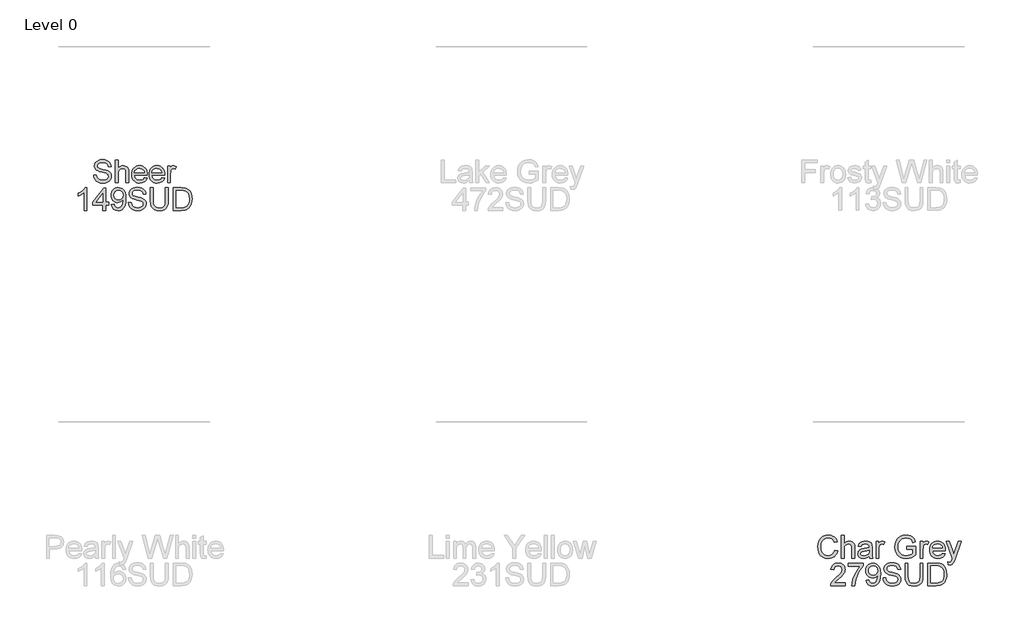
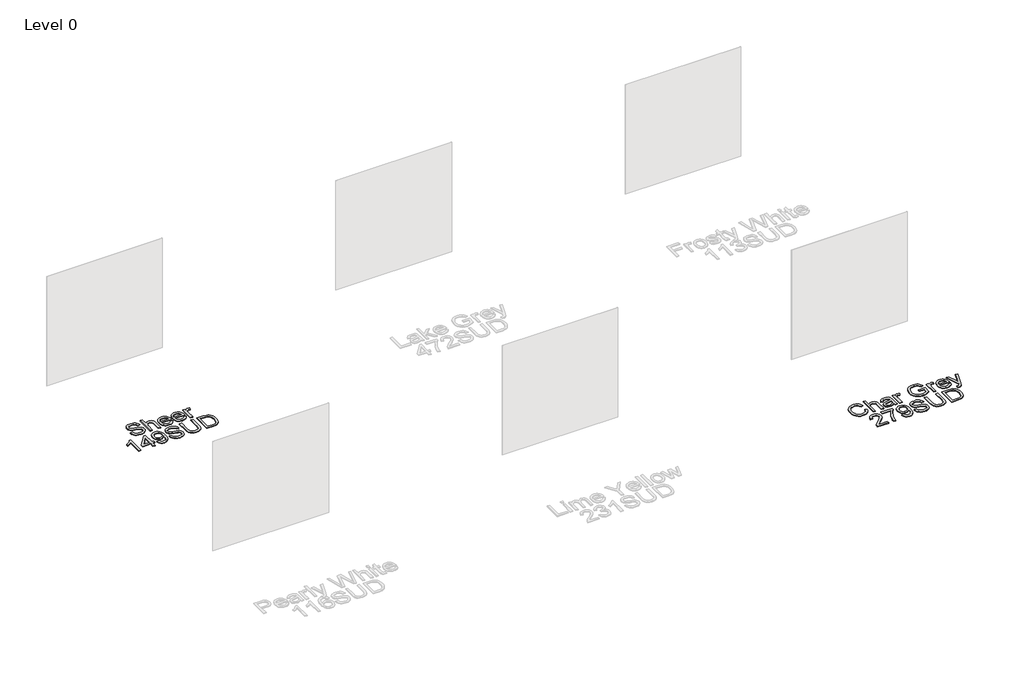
# One storey, part 14 of 37: 2 proxies.
"""IFC4 building model written with IfcOpenShell, lengths in millimetres."""

from ifc_helpers import new_model, si_unit, origin, origin_with_axes, place, context, project, spatial, polyline, outline, extrude, element, save

model = new_model("IFC4")

# Units and contexts
model_context = context("Model", 3, world=origin())
ifc_project = project(units=[si_unit("LENGTHUNIT", "METRE", prefix="MILLI")], contexts=[model_context])

# Site, building, storey
site = spatial("IfcSite", under=ifc_project)
building = spatial("IfcBuilding", under=site)
storey = spatial("IfcBuildingStorey", under=building, Name="Level 0", Elevation=0.0)

# Proxies
placement = place(None, origin())
element("IfcBuildingElementProxy", 1, Name="300mm Arial", ObjectType="300mm Arial", at=placement, inside=storey, context=model_context, shape_type="SweptSolid", body=[
    extrude(outline(polyline([(12.5285363, -46789.2649241), (50.1996526, -46789.2649241), (54.5222661, -46810.1698185), (62.3397585, -46826.9728286), (74.5350466, -46840.308551), (91.9910473, -46850.8115819), (113.328203, -46857.6265959), (137.1669563, -46859.8982672), (158.1546241, -46858.1784189), (176.5303298, -46853.0188739), (191.4203535, -46844.8518936), (201.9509756, -46834.1097394), (208.2141666, -46821.7764955), (210.3018969, -46808.8362463), (208.7383985, -46796.2270909), (204.047903, -46785.3285868), (194.5197593, -46776.0303694), (178.4433162, -46768.222074), (123.5921107, -46753.837888), (87.5856604, -46744.3189414), (64.5470504, -46735.2598472), (45.7942657, -46722.5863125), (32.5045287, -46707.2272392), (24.5858687, -46689.5137211), (21.9463154, -46669.7768521), (25.2112681, -46647.7131294), (35.0061262, -46627.1393289), (51.0733724, -46609.7017223), (73.1554891, -46597.0465817), (99.6613869, -46589.3486509), (128.999976, -46586.782674), (160.7849804, -46589.4682126), (188.5968592, -46597.5248283), (211.4423311, -46610.7869742), (228.3281147, -46629.0891034), (239.0150867, -46651.2907818), (243.2641237, -46676.2515752), (205.5930074, -46676.2515752), (198.6768259, -46653.7739853), (184.2558517, -46637.5503893), (161.7230795, -46627.7279401), (130.471504, -46624.4537903), (98.4841645, -46627.6911519), (76.5400035, -46637.4032365), (63.8480747, -46651.695452), (59.6174317, -46668.6732061), (62.61567, -46683.1493626), (71.6103848, -46694.7928278), (92.8739641, -46705.2038882), (133.1202543, -46715.8356779), (174.6541316, -46725.9340387), (199.7804719, -46734.7448125), (221.2555833, -46748.4116286), (236.2375776, -46765.2790181), (245.0391543, -46785.1630399), (247.9730132, -46807.8797531), (244.5976959, -46831.102304), (234.471744, -46852.9452975), (218.0090247, -46871.7440675), (195.6234053, -46885.8339479), (168.7036403, -46894.6355246), (138.6384843, -46897.5693835), (101.7307231, -46894.4055984), (71.3528674, -46884.9142429), (47.1554291, -46869.0585289), (28.7889205, -46846.8016682), (16.9983026, -46819.6887651), (12.5285363, -46789.2649241)])), origin_with_axes(), (0.0, 0.0, 1.0), 10.0),
    extrude(outline(polyline([(299.7707982, -46892.860494), (299.7707982, -46591.4915635), (337.4419145, -46591.4915635), (337.4419145, -46702.2976205), (351.278876, -46686.7821973), (366.8172918, -46675.6997522), (384.0571618, -46669.0502852), (402.998486, -46666.8337961), (425.7519874, -46669.2526203), (445.3049155, -46676.5090926), (460.700777, -46688.0329961), (470.9830787, -46703.2541137), (476.7772201, -46724.1682051), (478.7086006, -46752.7710302), (478.7086006, -46892.860494), (441.0374843, -46892.860494), (441.0374843, -46756.6705794), (438.0392461, -46733.0893435), (429.0445313, -46716.9393239), (414.5499807, -46707.6135153), (395.0522349, -46704.5049125), (379.1321416, -46706.6018398), (364.1869355, -46712.8926219), (351.8077064, -46722.7702535), (343.5855438, -46735.6277292), (338.9778218, -46752.7158479), (337.4419145, -46775.2854083), (337.4419145, -46892.860494), (299.7707982, -46892.860494)])), origin_with_axes(), (0.0, 0.0, 1.0), 10.0),
    extrude(outline(polyline([(685.4582819, -46826.9360404), (722.3936342, -46831.64493), (709.085503, -46859.4752029), (687.8495149, -46880.2789297), (659.1639163, -46893.2467701), (623.5069539, -46897.5693835), (600.1326517, -46895.7046817), (579.3059322, -46890.1105761), (561.0267956, -46880.7870668), (545.2952417, -46867.7341537), (532.6446996, -46851.3151204), (523.6085981, -46831.8932503), (518.1869372, -46809.4685435), (516.3797169, -46784.0409998), (518.2053313, -46757.7512327), (523.6821745, -46734.5792656), (532.8102465, -46714.5250983), (545.5895473, -46697.5887309), (561.2797144, -46684.133447), (579.1403853, -46674.5225298), (599.1715599, -46668.7559796), (621.3732383, -46666.8337961), (642.8598461, -46668.751381), (662.2909133, -46674.5041357), (679.6664397, -46684.0920602), (694.9864256, -46697.5151545), (707.4921142, -46714.4147337), (716.4247489, -46734.4321128), (721.7843297, -46757.5672917), (723.5708566, -46783.8202706), (723.3501274, -46793.9738137), (554.0508332, -46793.9738137), (560.5715416, -46822.1719686), (575.7190827, -46842.902119), (597.5804703, -46855.6492302), (624.2427179, -46859.8982672), (644.2922866, -46857.9300985), (661.1780702, -46852.0255925), (674.9000686, -46841.8168671), (685.4582819, -46826.9360404)]), holes=[polyline([(554.0508332, -46756.3026974), (685.8997403, -46756.3026974), (680.8045747, -46736.4002814), (670.8165785, -46722.1632482), (648.8540234, -46708.9194964), (621.2260856, -46704.5049125), (595.8330308, -46708.0273826), (574.836166, -46718.5947929), (560.2404478, -46735.0667092), (554.0508332, -46756.3026974)])]), origin_with_axes(), (0.0, 0.0, 1.0), 10.0),
    extrude(outline(polyline([(916.1938693, -46826.9360404), (953.1292216, -46831.64493), (939.8210904, -46859.4752029), (918.5851023, -46880.2789297), (889.8995037, -46893.2467701), (854.2425413, -46897.5693835), (830.868239, -46895.7046817), (810.0415196, -46890.1105761), (791.7623829, -46880.7870668), (776.0308291, -46867.7341537), (763.380287, -46851.3151204), (754.3441855, -46831.8932503), (748.9225246, -46809.4685435), (747.1153043, -46784.0409998), (748.9409187, -46757.7512327), (754.4177619, -46734.5792656), (763.5458339, -46714.5250983), (776.3251347, -46697.5887309), (792.0153018, -46684.133447), (809.8759727, -46674.5225298), (829.9071473, -46668.7559796), (852.1088257, -46666.8337961), (873.5954335, -46668.751381), (893.0265006, -46674.5041357), (910.4020271, -46684.0920602), (925.722013, -46697.5151545), (938.2277015, -46714.4147337), (947.1603362, -46734.4321128), (952.519917, -46757.5672917), (954.306444, -46783.8202706), (954.0857148, -46793.9738137), (784.7864206, -46793.9738137), (791.307129, -46822.1719686), (806.4546701, -46842.902119), (828.3160577, -46855.6492302), (854.9783053, -46859.8982672), (875.027874, -46857.9300985), (891.9136576, -46852.0255925), (905.635656, -46841.8168671), (916.1938693, -46826.9360404)]), holes=[polyline([(784.7864206, -46756.3026974), (916.6353277, -46756.3026974), (911.540162, -46736.4002814), (901.5521659, -46722.1632482), (879.5896108, -46708.9194964), (851.9616729, -46704.5049125), (826.5686182, -46708.0273826), (805.5717533, -46718.5947929), (790.9760352, -46735.0667092), (784.7864206, -46756.3026974)])]), origin_with_axes(), (0.0, 0.0, 1.0), 10.0),
    extrude(outline(polyline([(991.9775603, -46892.860494), (991.9775603, -46671.5426857), (1024.9397871, -46671.5426857), (1024.9397871, -46704.2841833), (1037.1166811, -46685.3014723), (1048.337082, -46674.1178596), (1059.594271, -46668.654812), (1071.8815296, -46666.8337961), (1090.6435114, -46669.7400639), (1109.6997987, -46678.4588672), (1097.1182345, -46712.2304343), (1083.8744827, -46706.4362929), (1070.6307309, -46704.5049125), (1059.3827389, -46706.3627165), (1049.3303633, -46711.9361288), (1041.2093683, -46720.8020848), (1035.7555177, -46732.5375205), (1031.1753869, -46753.5803706), (1029.6486766, -46776.5362071), (1029.6486766, -46892.860494), (991.9775603, -46892.860494)])), origin_with_axes(), (0.0, 0.0, 1.0), 10.0),
    extrude(outline(polyline([(-76.9403649, -47258.7849475), (-114.6114812, -47258.7849475), (-114.6114812, -47023.9290818), (-150.2960347, -47049.3497277), (-189.9537138, -47068.3692268), (-189.9537138, -47032.7582497), (-160.3668044, -47016.6634124), (-134.7346263, -46997.5151545), (-114.5287078, -46977.1528861), (-101.2205766, -46957.4160171), (-76.9403649, -46957.4160171), (-76.9403649, -47258.7849475)])), origin_with_axes(), (0.0, 0.0, 1.0), 10.0),
    extrude(outline(polyline([(134.9596643, -47258.7849475), (134.9596643, -47188.1516044), (-1.5981323, -47188.1516044), (-1.5981323, -47150.4804881), (144.3774434, -46962.1249066), (172.6307806, -46962.1249066), (172.6307806, -47150.4804881), (210.3018969, -47150.4804881), (210.3018969, -47188.1516044), (172.6307806, -47188.1516044), (172.6307806, -47258.7849475), (134.9596643, -47258.7849475)]), holes=[polyline([(134.9596643, -47150.4804881), (134.9596643, -47034.0826249), (44.7549991, -47150.4804881), (134.9596643, -47150.4804881)])]), origin_with_axes(), (0.0, 0.0, 1.0), 10.0),
    extrude(outline(polyline([(247.9730132, -47183.4427149), (285.6441295, -47178.7338254), (292.0820645, -47200.1169663), (302.5667013, -47214.6758963), (316.8405227, -47223.0360146), (334.6460113, -47225.8227207), (350.6212869, -47224.029296), (365.1434287, -47218.6490218), (377.2099581, -47210.2705094), (385.8183968, -47199.4823699), (398.1424437, -47166.7408723), (403.5870972, -47123.0364913), (403.366368, -47115.6788514), (390.3157542, -47131.6081418), (373.2368326, -47144.2264942), (353.3620078, -47152.4486568), (331.9236845, -47155.1893777), (314.0285247, -47153.5155146), (297.5727032, -47148.4939254), (282.5562201, -47140.12461), (268.9790752, -47128.4075684), (257.7287839, -47113.9544045), (249.6928616, -47097.3767221), (244.8713082, -47078.6745212), (243.2641237, -47057.8478018), (244.9494831, -47036.326705), (250.0055613, -47017.0129003), (258.4323582, -46999.9063875), (270.229874, -46985.0071667), (284.5657755, -46972.9360387), (300.6077297, -46964.3138045), (318.3557367, -46959.1404639), (337.8097965, -46957.4160171), (365.9067838, -46961.3523544), (391.4837796, -46973.1613665), (412.8761176, -46992.254442), (428.4191319, -47018.0429699), (437.8828962, -47053.6907352), (441.0374843, -47102.3615232), (437.8920933, -47153.96617), (428.4559201, -47193.8537754), (412.8117382, -47223.8269609), (391.0423212, -47245.6883485), (364.085768, -47259.0424649), (332.8801777, -47263.4938371), (300.6721091, -47258.2423216), (274.9755517, -47242.4877751), (257.0045162, -47217.2234791), (247.9730132, -47183.4427149)]), holes=[polyline([(403.366368, -47056.964885), (399.301272, -47031.4338745), (387.1059838, -47011.788976), (368.1784552, -46999.262594), (343.9166376, -46995.0871334), (318.7535091, -46999.5844908), (298.5935758, -47013.0765629), (285.349824, -47033.7239399), (280.93524, -47059.6872117), (285.1107007, -47082.964945), (297.6370826, -47101.4418182), (317.3003752, -47113.4991506), (342.886568, -47117.5182614), (366.9552475, -47113.4991506), (386.3334316, -47101.4418182), (399.1081339, -47082.2843633), (403.366368, -47056.964885)])]), origin_with_axes(), (0.0, 0.0, 1.0), 10.0),
    extrude(outline(polyline([(473.9997111, -47155.1893777), (511.6708274, -47155.1893777), (515.9934408, -47176.0942721), (523.8109332, -47192.8972822), (536.0062214, -47206.2330045), (553.462222, -47216.7360355), (574.7993778, -47223.5510494), (598.638131, -47225.8227207), (619.6257989, -47224.1028724), (638.0015045, -47218.9433274), (652.8915283, -47210.7763471), (663.4221504, -47200.0341929), (669.6853414, -47187.700949), (671.7730717, -47174.7606998), (670.2095732, -47162.1515444), (665.5190778, -47151.2530403), (655.9909341, -47141.9548229), (639.9144909, -47134.1465276), (585.0632854, -47119.7623415), (549.0568351, -47110.2433949), (526.0182252, -47101.1843008), (507.2654405, -47088.510766), (493.9757034, -47073.1516928), (486.0570435, -47055.4381747), (483.4174902, -47035.7013056), (486.6824429, -47013.637583), (496.477301, -46993.0637824), (512.5445471, -46975.6261758), (534.6266639, -46962.9710352), (561.1325616, -46955.2731044), (590.4711508, -46952.7071275), (622.2561551, -46955.3926661), (650.068034, -46963.4492818), (672.9135059, -46976.7114277), (689.7992895, -46995.013557), (700.4862614, -47017.2152354), (704.7352985, -47042.1760288), (667.0641821, -47042.1760288), (660.1480006, -47019.6984389), (645.7270264, -47003.4748429), (623.1942542, -46993.6523936), (591.9426787, -46990.3782438), (559.9553393, -46993.6156054), (538.0111782, -47003.3276901), (525.3192494, -47017.6199056), (521.0886065, -47034.5976597), (524.0868447, -47049.0738162), (533.0815595, -47060.7172813), (554.3451388, -47071.1283418), (594.5914291, -47081.7601314), (636.1253064, -47091.8584922), (661.2516466, -47100.669266), (682.7267581, -47114.3360821), (697.7087523, -47131.2034716), (706.5103291, -47151.0874934), (709.444188, -47173.8042066), (706.0688707, -47197.0267576), (695.9429188, -47218.869751), (679.4801995, -47237.668521), (657.0945801, -47251.7584014), (630.1748151, -47260.5599781), (600.109659, -47263.4938371), (563.2018979, -47260.3300519), (532.8240421, -47250.8386964), (508.6266039, -47234.9829824), (490.2600953, -47212.7261217), (478.4694773, -47185.6132187), (473.9997111, -47155.1893777)])), origin_with_axes(), (0.0, 0.0, 1.0), 10.0),
    extrude(outline(polyline([(963.7242231, -46957.4160171), (1001.3953394, -46957.4160171), (1001.3953394, -47131.277048), (998.8385595, -47171.9923878), (991.1682199, -47203.3451308), (976.8392162, -47227.533372), (954.306444, -47246.7552063), (923.514721, -47259.3091794), (884.4088649, -47263.4938371), (846.1583345, -47259.8518053), (815.5781436, -47248.92571), (792.6590953, -47231.0926303), (777.3919925, -47206.7296452), (768.811145, -47174.052527), (765.9508625, -47131.277048), (765.9508625, -46957.4160171), (803.6219788, -46957.4160171), (803.6219788, -47129.9526728), (805.4797828, -47163.8070134), (811.0531951, -47187.3790523), (821.1515558, -47203.7038158), (836.5842055, -47215.8163305), (856.7073507, -47223.3211232), (880.8771977, -47225.8227207), (919.1921075, -47220.8747079), (933.5349068, -47214.6896919), (944.6679357, -47206.0306694), (953.0050614, -47193.8537754), (958.9601512, -47177.1151446), (963.7242231, -47129.9526728), (963.7242231, -46957.4160171)])), origin_with_axes(), (0.0, 0.0, 1.0), 10.0),
    extrude(outline(polyline([(1067.3197929, -47258.7849475), (1067.3197929, -46957.4160171), (1171.2832447, -46957.4160171), (1225.0675924, -46961.7570246), (1249.0902867, -46970.12634), (1269.3605847, -46983.3149095), (1290.2010997, -47006.270746), (1305.0451382, -47034.8183889), (1313.9294884, -47068.406015), (1316.8909384, -47106.4818015), (1314.8859816, -47138.8278259), (1308.8711109, -47167.2926953), (1299.7108493, -47191.5269217), (1288.2697192, -47211.1810173), (1275.0995438, -47226.6964405), (1260.752146, -47238.5146496), (1244.2802296, -47247.2794381), (1224.7364986, -47253.6345996), (1176.2864399, -47258.7849475), (1067.3197929, -47258.7849475)]), holes=[polyline([(1104.9909092, -47221.1138312), (1171.6511267, -47221.1138312), (1199.2238823, -47219.7526678), (1220.1379737, -47215.6691777), (1235.9201113, -47209.1024841), (1248.0970053, -47200.2917103), (1261.1844073, -47183.9853408), (1271.0160536, -47162.8781114), (1277.16888, -47136.8780514), (1279.2198221, -47105.8931903), (1275.2007113, -47064.8375597), (1263.1433789, -47034.5240833), (1245.3286933, -47013.7019623), (1224.0375228, -47001.1203981), (1202.3692733, -46996.5954496), (1170.6210571, -46995.0871334), (1104.9909092, -46995.0871334), (1104.9909092, -47221.1138312)])]), origin_with_axes(), (0.0, 0.0, 1.0), 10.0),
])
element("IfcBuildingElementProxy", 2, Name="300mm Arial", ObjectType="300mm Arial", at=placement, inside=storey, context=model_context, shape_type="SweptSolid", body=[
    extrude(outline(polyline([(9833.5907339, -51764.733257), (9871.2618502, -51774.4453417), (9863.8076413, -51797.872527), (9853.8794259, -51818.3428607), (9841.4772041, -51835.856343), (9826.600976, -51850.4129737), (9809.5864337, -51861.856403), (9790.7692696, -51870.0302811), (9770.1494838, -51874.9346079), (9747.7270762, -51876.5693835), (9704.0318922, -51871.6213707), (9669.331423, -51856.7773322), (9642.7335548, -51832.5523028), (9623.3461736, -51799.4613173), (9611.5095704, -51760.5577963), (9607.564036, -51718.8951604), (9612.0246052, -51674.9516561), (9625.4063128, -51637.0046283), (9647.010183, -51606.2588905), (9676.1372399, -51583.9192564), (9710.6813593, -51570.3168196), (9748.5364166, -51565.782674), (9789.8403676, -51571.6503918), (9807.8091038, -51578.9850391), (9823.9890138, -51589.2535453), (9838.1133832, -51602.1845974), (9849.9154974, -51617.5068825), (9866.5529606, -51655.3251516), (9828.8818443, -51664.3014723), (9815.8220335, -51636.8298843), (9797.9797567, -51617.9851291), (9775.1342848, -51607.086625), (9747.0648886, -51603.4537903), (9714.7096671, -51607.4820981), (9688.130193, -51619.5670217), (9667.9610626, -51638.439368), (9654.8368724, -51662.8299443), (9647.6355824, -51690.4026999), (9645.2351523, -51718.821584), (9648.0770408, -51753.6232207), (9656.602706, -51783.7159679), (9671.1340448, -51807.9501944), (9691.9929539, -51825.1762688), (9716.9997326, -51835.4677676), (9743.9746799, -51838.8982672), (9775.4193934, -51834.2261659), (9801.6217885, -51820.2098619), (9821.4046428, -51796.996508), (9833.5907339, -51764.733257)])), origin_with_axes(), (0.0, 0.0, 1.0), 10.0),
    extrude(outline(polyline([(9918.3507456, -51871.860494), (9918.3507456, -51570.4915635), (9956.0218619, -51570.4915635), (9956.0218619, -51681.2976205), (9969.8588234, -51665.7821973), (9985.3972392, -51654.6997522), (10002.6371092, -51648.0502852), (10021.5784334, -51645.8337961), (10044.3319348, -51648.2526203), (10063.8848629, -51655.5090926), (10079.2807244, -51667.0329961), (10089.5630261, -51682.2541137), (10095.3571675, -51703.1682051), (10097.288548, -51731.7710302), (10097.288548, -51871.860494), (10059.6174317, -51871.860494), (10059.6174317, -51735.6705794), (10056.6191935, -51712.0893435), (10047.6244787, -51695.9393239), (10033.1299281, -51686.6135153), (10013.6321823, -51683.5049125), (9997.712089, -51685.6018398), (9982.7668829, -51691.8926219), (9970.3876538, -51701.7702535), (9962.1654912, -51714.6277292), (9957.5577692, -51731.7158479), (9956.0218619, -51754.2854083), (9956.0218619, -51871.860494), (9918.3507456, -51871.860494)])), origin_with_axes(), (0.0, 0.0, 1.0), 10.0),
    extrude(outline(polyline([(10290.3530191, -51843.6071568), (10272.3543925, -51859.0398064), (10253.822337, -51869.1381672), (10234.3337883, -51874.7115794), (10213.4656821, -51876.5693835), (10181.9841804, -51872.0996173), (10158.7616294, -51858.6903186), (10144.4418228, -51838.3280501), (10139.6685539, -51812.9993748), (10141.4711756, -51797.3827841), (10146.879041, -51783.2009331), (10155.2207652, -51771.0608273), (10165.8249637, -51761.5694718), (10192.2021028, -51749.2086368), (10224.7964475, -51743.5432541), (10263.3136924, -51737.5835657), (10290.1322899, -51730.5938078), (10290.3530191, -51722.2060983), (10287.759451, -51705.3938912), (10279.9787468, -51694.3942195), (10262.5779285, -51686.2272392), (10238.334505, -51683.5049125), (10215.8937033, -51685.3167313), (10200.2219303, -51690.7521878), (10189.5349583, -51700.8045633), (10182.0485597, -51716.4671392), (10144.3774434, -51711.7582497), (10150.9165459, -51691.1568579), (10160.6746158, -51674.9700502), (10174.5621611, -51662.590821), (10193.4896898, -51653.4121652), (10216.6386643, -51647.7283884), (10243.1905473, -51645.8337961), (10268.6571784, -51647.5076592), (10288.8447029, -51652.5292485), (10304.0658205, -51660.0800264), (10314.6332308, -51669.3414556), (10321.6413828, -51680.7917827), (10326.1847254, -51694.9092543), (10328.0241354, -51727.8714811), (10328.0241354, -51774.7396473), (10329.9371218, -51840.1858542), (10337.4419145, -51871.860494), (10299.7707982, -51871.860494), (10290.3530191, -51843.6071568)]), holes=[polyline([(10290.3530191, -51768.2649241), (10229.5789135, -51779.8164188), (10197.1685097, -51785.9232599), (10182.4900181, -51795.8560738), (10177.3396702, -51810.3506244), (10180.1447704, -51821.5526311), (10188.560071, -51830.7312869), (10202.4016311, -51836.8565221), (10221.4855096, -51838.8982672), (10241.7190193, -51836.64499), (10259.5980843, -51829.8851583), (10274.0926349, -51819.9247533), (10284.1726016, -51808.069756), (10288.6423678, -51795.8560738), (10290.1322899, -51778.933502), (10290.3530191, -51768.2649241)])]), origin_with_axes(), (0.0, 0.0, 1.0), 10.0),
    extrude(outline(polyline([(10379.8219203, -51871.860494), (10379.8219203, -51650.5426857), (10412.7841471, -51650.5426857), (10412.7841471, -51683.2841833), (10424.9610411, -51664.3014723), (10436.181442, -51653.1178596), (10447.438631, -51647.654812), (10459.7258897, -51645.8337961), (10478.4878714, -51648.7400639), (10497.5441588, -51657.4588672), (10484.9625945, -51691.2304343), (10471.7188427, -51685.4362929), (10458.4750909, -51683.5049125), (10447.2270989, -51685.3627165), (10437.1747234, -51690.9361288), (10429.0537283, -51699.8020848), (10423.5998777, -51711.5375205), (10419.0197469, -51732.5803706), (10417.4930366, -51755.5362071), (10417.4930366, -51871.860494), (10379.8219203, -51871.860494)])), origin_with_axes(), (0.0, 0.0, 1.0), 10.0),
    extrude(outline(polyline([(10784.7864206, -51754.1382555), (10784.7864206, -51716.4671392), (10907.2175486, -51716.4671392), (10907.2175486, -51829.1126061), (10877.4650922, -51849.8059684), (10846.7745368, -51864.6500069), (10815.2194587, -51873.5895394), (10782.8734342, -51876.5693835), (10740.61299, -51871.8329028), (10702.4176419, -51857.6234608), (10670.6878198, -51834.437698), (10647.8239538, -51802.7722553), (10634.0007878, -51764.7884393), (10629.3930658, -51722.6475567), (10633.9823937, -51680.2031715), (10647.7503774, -51640.7202364), (10670.1267998, -51607.6016598), (10700.5414437, -51584.2503502), (10737.5871606, -51570.399593), (10779.8568019, -51565.782674), (10810.8876482, -51568.4590155), (10838.7914975, -51576.4880401), (10862.2899599, -51589.2903335), (10880.1046456, -51606.2864817), (10893.284018, -51628.295022), (10902.8765411, -51656.134492), (10868.1484807, -51665.9201531), (10860.3953677, -51646.0637224), (10850.9683915, -51631.0817281), (10838.4971919, -51619.7877509), (10821.6114083, -51610.9953712), (10801.4790661, -51605.3391855), (10779.2681907, -51603.4537903), (10753.2681307, -51605.4863383), (10731.0388611, -51611.5839824), (10712.6631555, -51620.9833674), (10698.2237871, -51632.9211381), (10678.836406, -51661.9470275), (10670.0072381, -51690.3843058), (10667.0641821, -51721.1024524), (10670.6050464, -51757.1272967), (10681.227639, -51786.7693885), (10698.6100632, -51809.8171955), (10722.4304224, -51826.0591856), (10750.3066806, -51835.6884968), (10779.8568019, -51838.8982672), (10805.9488324, -51836.4794431), (10831.3970694, -51829.2229707), (10853.4975803, -51819.2257775), (10869.5464323, -51808.5847908), (10869.5464323, -51754.1382555), (10784.7864206, -51754.1382555)])), origin_with_axes(), (0.0, 0.0, 1.0), 10.0),
    extrude(outline(polyline([(10963.7242231, -51871.860494), (10963.7242231, -51650.5426857), (10996.6864498, -51650.5426857), (10996.6864498, -51683.2841833), (11008.8633439, -51664.3014723), (11020.0837447, -51653.1178596), (11031.3409338, -51647.654812), (11043.6281924, -51645.8337961), (11062.3901742, -51648.7400639), (11081.4464615, -51657.4588672), (11068.8648973, -51691.2304343), (11055.6211455, -51685.4362929), (11042.3773936, -51683.5049125), (11031.1294016, -51685.3627165), (11021.0770261, -51690.9361288), (11012.9560311, -51699.8020848), (11007.5021805, -51711.5375205), (11002.9220496, -51732.5803706), (11001.3953394, -51755.5362071), (11001.3953394, -51871.860494), (10963.7242231, -51871.860494)])), origin_with_axes(), (0.0, 0.0, 1.0), 10.0),
    extrude(outline(polyline([(11259.9428056, -51805.9360404), (11296.8781579, -51810.64493), (11283.5700267, -51838.4752029), (11262.3340385, -51859.2789297), (11233.64844, -51872.2467701), (11197.9914776, -51876.5693835), (11174.6171753, -51874.7046817), (11153.7904559, -51869.1105761), (11135.5113192, -51859.7870668), (11119.7797654, -51846.7341537), (11107.1292233, -51830.3151204), (11098.0931218, -51810.8932503), (11092.6714609, -51788.4685435), (11090.8642406, -51763.0409998), (11092.689855, -51736.7512327), (11098.1666982, -51713.5792656), (11107.2947702, -51693.5250983), (11120.074071, -51676.5887309), (11135.7642381, -51663.133447), (11153.624909, -51653.5225298), (11173.6560836, -51647.7559796), (11195.857762, -51645.8337961), (11217.3443698, -51647.751381), (11236.7754369, -51653.5041357), (11254.1509634, -51663.0920602), (11269.4709493, -51676.5151545), (11281.9766378, -51693.4147337), (11290.9092725, -51713.4321128), (11296.2688533, -51736.5672917), (11298.0553803, -51762.8202706), (11297.8346511, -51772.9738137), (11128.5353569, -51772.9738137), (11135.0560653, -51801.1719686), (11150.2036064, -51821.902119), (11172.064994, -51834.6492302), (11198.7272416, -51838.8982672), (11218.7768103, -51836.9300985), (11235.6625939, -51831.0255925), (11249.3845923, -51820.8168671), (11259.9428056, -51805.9360404)]), holes=[polyline([(11128.5353569, -51735.3026974), (11260.384264, -51735.3026974), (11255.2890983, -51715.4002814), (11245.3011022, -51701.1632482), (11223.3385471, -51687.9194964), (11195.7106092, -51683.5049125), (11170.3175545, -51687.0273826), (11149.3206896, -51697.5947929), (11134.7249715, -51714.0667092), (11128.5353569, -51735.3026974)])]), origin_with_axes(), (0.0, 0.0, 1.0), 10.0),
    extrude(outline(polyline([(11335.7264966, -51956.6205057), (11331.017607, -51920.3473409), (11350.1474708, -51923.6582789), (11368.0265358, -51919.5012124), (11378.9894192, -51907.9129295), (11389.2901151, -51880.1746271), (11392.233171, -51871.0511536), (11312.1820489, -51650.5426857), (11351.9133044, -51650.5426857), (11394.3668866, -51773.4152721), (11409.1557428, -51822.5643066), (11423.944599, -51779.1542312), (11467.5754037, -51650.5426857), (11507.0123535, -51650.5426857), (11429.9778637, -51877.1579947), (11409.9650832, -51926.3070293), (11399.7195696, -51941.9971964), (11388.1128927, -51952.8681093), (11374.6300176, -51959.2140737), (11358.7559095, -51961.3293952), (11335.7264966, -51956.6205057)])), origin_with_axes(), (0.0, 0.0, 1.0), 10.0),
    extrude(outline(polyline([(9974.85742, -52200.1138312), (9974.85742, -52237.7849475), (9777.0840594, -52237.7849475), (9781.1307614, -52211.8124787), (9790.4197817, -52191.5145896), (9804.0130215, -52171.8237058), (9823.6763141, -52151.213117), (9851.1754932, -52128.156113), (9891.8264537, -52092.0484951), (9916.21703, -52065.3954446), (9928.4123181, -52043.7639833), (9932.4774142, -52022.7211331), (9928.6422444, -52003.8579838), (9917.136735, -51988.1770138), (9899.4508081, -51977.6096035), (9877.0743857, -51974.0871334), (9853.5759233, -51977.52683), (9835.3197793, -51987.84592), (9823.5383584, -52004.2350629), (9819.4640653, -52025.8849183), (9781.792949, -52021.1760288), (9790.9256195, -51984.7373171), (9799.4719781, -51970.2013798), (9810.6716856, -51958.1210548), (9824.2672246, -51948.6251008), (9840.0010776, -51941.8422765), (9877.8837261, -51936.4160171), (9898.0735498, -51937.9243332), (9916.042286, -51942.4492818), (9931.7899347, -51949.9908627), (9945.3164958, -51960.549076), (9956.180511, -51973.3421723), (9963.9405218, -51987.5884026), (9968.5965283, -52003.2877667), (9970.1485305, -52020.4402648), (9968.4746674, -52038.4572855), (9963.4530782, -52056.1616065), (9954.5411368, -52074.1694302), (9941.1962175, -52093.0969588), (9919.9234411, -52115.6941104), (9887.2279288, -52144.7108027), (9843.8914297, -52180.9471793), (9826.8952816, -52200.1138312), (9974.85742, -52200.1138312)])), origin_with_axes(), (0.0, 0.0, 1.0), 10.0),
    extrude(outline(polyline([(10012.5285363, -51978.7960229), (10012.5285363, -51941.1249066), (10210.3018969, -51941.1249066), (10210.3018969, -51971.5855358), (10182.1129391, -52007.2608923), (10154.1998927, -52052.6299393), (10129.5793901, -52103.5540045), (10111.2680638, -52155.8944154), (10102.2917432, -52195.0554538), (10097.288548, -52237.7849475), (10059.6174317, -52237.7849475), (10063.6917248, -52198.9550029), (10074.5902289, -52152.8042066), (10092.0186384, -52103.8850983), (10115.6826478, -52056.7502177), (10143.3105856, -52014.1402856), (10172.6307806, -51978.7960229), (10012.5285363, -51978.7960229)])), origin_with_axes(), (0.0, 0.0, 1.0), 10.0),
    extrude(outline(polyline([(10247.9730132, -52162.4427149), (10285.6441295, -52157.7338254), (10292.0820645, -52179.1169663), (10302.5667013, -52193.6758963), (10316.8405227, -52202.0360146), (10334.6460113, -52204.8227207), (10350.6212869, -52203.029296), (10365.1434287, -52197.6490218), (10377.2099581, -52189.2705094), (10385.8183968, -52178.4823699), (10398.1424437, -52145.7408723), (10403.5870972, -52102.0364913), (10403.366368, -52094.6788514), (10390.3157542, -52110.6081418), (10373.2368326, -52123.2264942), (10353.3620078, -52131.4486568), (10331.9236845, -52134.1893777), (10314.0285247, -52132.5155146), (10297.5727032, -52127.4939254), (10282.5562201, -52119.12461), (10268.9790752, -52107.4075684), (10257.7287839, -52092.9544045), (10249.6928616, -52076.3767221), (10244.8713082, -52057.6745212), (10243.2641237, -52036.8478018), (10244.9494831, -52015.326705), (10250.0055613, -51996.0129003), (10258.4323582, -51978.9063875), (10270.229874, -51964.0071667), (10284.5657755, -51951.9360387), (10300.6077297, -51943.3138045), (10318.3557367, -51938.1404639), (10337.8097965, -51936.4160171), (10365.9067838, -51940.3523544), (10391.4837796, -51952.1613665), (10412.8761176, -51971.254442), (10428.4191319, -51997.0429699), (10437.8828962, -52032.6907352), (10441.0374843, -52081.3615232), (10437.8920933, -52132.96617), (10428.4559201, -52172.8537754), (10412.8117382, -52202.8269609), (10391.0423212, -52224.6883485), (10364.085768, -52238.0424649), (10332.8801777, -52242.4938371), (10300.6721091, -52237.2423216), (10274.9755517, -52221.4877751), (10257.0045162, -52196.2234791), (10247.9730132, -52162.4427149)]), holes=[polyline([(10403.366368, -52035.964885), (10399.301272, -52010.4338745), (10387.1059838, -51990.788976), (10368.1784552, -51978.262594), (10343.9166376, -51974.0871334), (10318.7535091, -51978.5844908), (10298.5935758, -51992.0765629), (10285.349824, -52012.7239399), (10280.93524, -52038.6872117), (10285.1107007, -52061.964945), (10297.6370826, -52080.4418182), (10317.3003752, -52092.4991506), (10342.886568, -52096.5182614), (10366.9552475, -52092.4991506), (10386.3334316, -52080.4418182), (10399.1081339, -52061.2843633), (10403.366368, -52035.964885)])]), origin_with_axes(), (0.0, 0.0, 1.0), 10.0),
    extrude(outline(polyline([(10473.9997111, -52134.1893777), (10511.6708274, -52134.1893777), (10515.9934408, -52155.0942721), (10523.8109332, -52171.8972822), (10536.0062214, -52185.2330045), (10553.462222, -52195.7360355), (10574.7993778, -52202.5510494), (10598.638131, -52204.8227207), (10619.6257989, -52203.1028724), (10638.0015045, -52197.9433274), (10652.8915283, -52189.7763471), (10663.4221504, -52179.0341929), (10669.6853414, -52166.700949), (10671.7730717, -52153.7606998), (10670.2095732, -52141.1515444), (10665.5190778, -52130.2530403), (10655.9909341, -52120.9548229), (10639.9144909, -52113.1465276), (10585.0632854, -52098.7623415), (10549.0568351, -52089.2433949), (10526.0182252, -52080.1843008), (10507.2654405, -52067.510766), (10493.9757034, -52052.1516928), (10486.0570435, -52034.4381747), (10483.4174902, -52014.7013056), (10486.6824429, -51992.637583), (10496.477301, -51972.0637824), (10512.5445471, -51954.6261758), (10534.6266639, -51941.9710352), (10561.1325616, -51934.2731044), (10590.4711508, -51931.7071275), (10622.2561551, -51934.3926661), (10650.068034, -51942.4492818), (10672.9135059, -51955.7114277), (10689.7992895, -51974.013557), (10700.4862614, -51996.2152354), (10704.7352985, -52021.1760288), (10667.0641821, -52021.1760288), (10660.1480006, -51998.6984389), (10645.7270264, -51982.4748429), (10623.1942542, -51972.6523936), (10591.9426787, -51969.3782438), (10559.9553393, -51972.6156054), (10538.0111782, -51982.3276901), (10525.3192494, -51996.6199056), (10521.0886065, -52013.5976597), (10524.0868447, -52028.0738162), (10533.0815595, -52039.7172813), (10554.3451388, -52050.1283418), (10594.5914291, -52060.7601314), (10636.1253064, -52070.8584922), (10661.2516466, -52079.669266), (10682.7267581, -52093.3360821), (10697.7087523, -52110.2034716), (10706.5103291, -52130.0874934), (10709.444188, -52152.8042066), (10706.0688707, -52176.0267576), (10695.9429188, -52197.869751), (10679.4801995, -52216.668521), (10657.0945801, -52230.7584014), (10630.1748151, -52239.5599781), (10600.109659, -52242.4938371), (10563.2018979, -52239.3300519), (10532.8240421, -52229.8386964), (10508.6266039, -52213.9829824), (10490.2600953, -52191.7261217), (10478.4694773, -52164.6132187), (10473.9997111, -52134.1893777)])), origin_with_axes(), (0.0, 0.0, 1.0), 10.0),
    extrude(outline(polyline([(10963.7242231, -51936.4160171), (11001.3953394, -51936.4160171), (11001.3953394, -52110.277048), (10998.8385595, -52150.9923878), (10991.1682199, -52182.3451308), (10976.8392162, -52206.533372), (10954.306444, -52225.7552063), (10923.514721, -52238.3091794), (10884.4088649, -52242.4938371), (10846.1583345, -52238.8518053), (10815.5781436, -52227.92571), (10792.6590953, -52210.0926303), (10777.3919925, -52185.7296452), (10768.811145, -52153.052527), (10765.9508625, -52110.277048), (10765.9508625, -51936.4160171), (10803.6219788, -51936.4160171), (10803.6219788, -52108.9526728), (10805.4797828, -52142.8070134), (10811.0531951, -52166.3790523), (10821.1515558, -52182.7038158), (10836.5842055, -52194.8163305), (10856.7073507, -52202.3211232), (10880.8771977, -52204.8227207), (10919.1921075, -52199.8747079), (10933.5349068, -52193.6896919), (10944.6679357, -52185.0306694), (10953.0050614, -52172.8537754), (10958.9601512, -52156.1151446), (10963.7242231, -52108.9526728), (10963.7242231, -51936.4160171)])), origin_with_axes(), (0.0, 0.0, 1.0), 10.0),
    extrude(outline(polyline([(11067.3197929, -52237.7849475), (11067.3197929, -51936.4160171), (11171.2832447, -51936.4160171), (11225.0675924, -51940.7570246), (11249.0902867, -51949.12634), (11269.3605847, -51962.3149095), (11290.2010997, -51985.270746), (11305.0451382, -52013.8183889), (11313.9294884, -52047.406015), (11316.8909384, -52085.4818015), (11314.8859816, -52117.8278259), (11308.8711109, -52146.2926953), (11299.7108493, -52170.5269217), (11288.2697192, -52190.1810173), (11275.0995438, -52205.6964405), (11260.752146, -52217.5146496), (11244.2802296, -52226.2794381), (11224.7364986, -52232.6345996), (11176.2864399, -52237.7849475), (11067.3197929, -52237.7849475)]), holes=[polyline([(11104.9909092, -52200.1138312), (11171.6511267, -52200.1138312), (11199.2238823, -52198.7526678), (11220.1379737, -52194.6691777), (11235.9201113, -52188.1024841), (11248.0970053, -52179.2917103), (11261.1844073, -52162.9853408), (11271.0160536, -52141.8781114), (11277.16888, -52115.8780514), (11279.2198221, -52084.8931903), (11275.2007113, -52043.8375597), (11263.1433789, -52013.5240833), (11245.3286933, -51992.7019623), (11224.0375228, -51980.1203981), (11202.3692733, -51975.5954496), (11170.6210571, -51974.0871334), (11104.9909092, -51974.0871334), (11104.9909092, -52200.1138312)])]), origin_with_axes(), (0.0, 0.0, 1.0), 10.0),
])

save(model, "model.ifc")
